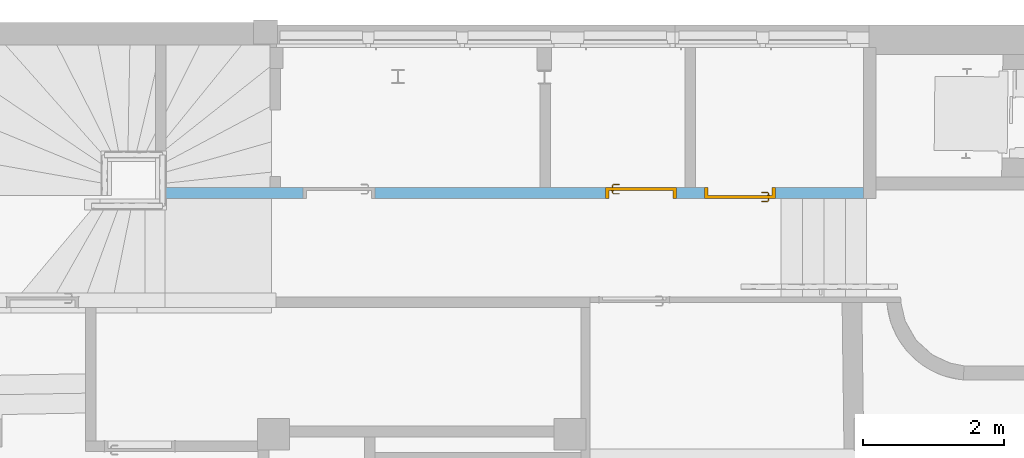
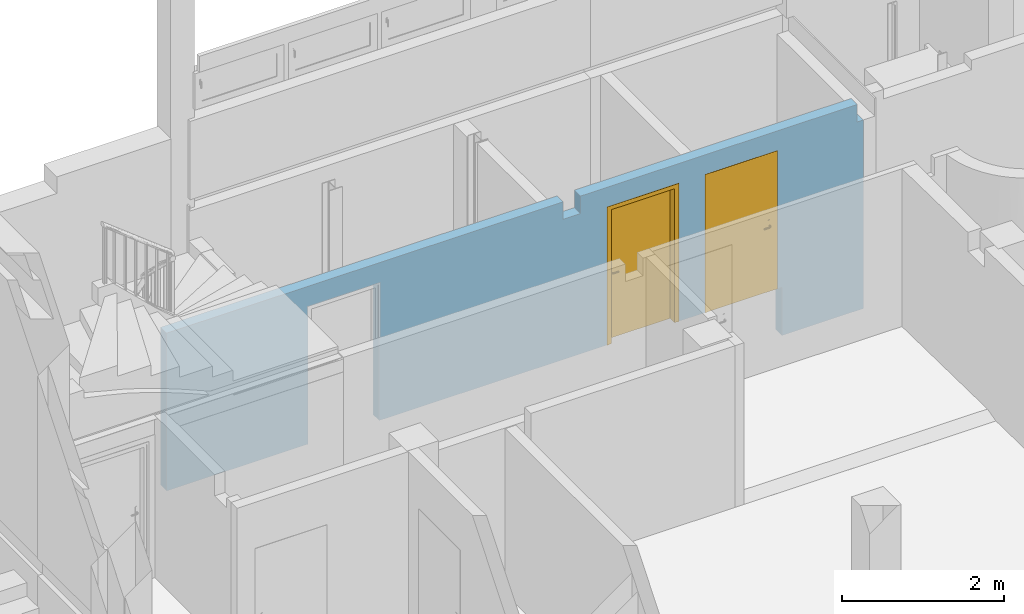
# One storey, part 14 of 39: 2 doors, 3 openings, plus 1 element that does not belong to this part.
"""IFC4 building model written with IfcOpenShell, lengths in metres."""

from ifc_helpers import new_model, entity, si_unit, converted_unit, derived_unit, direction, frame, origin, place, context, subcontext, project, spatial, indexed_curve, outline, extrude, polygons, source, transform, mapped, material, material_list, layer, layer_set, constituent, constituent_set, type_object, type_shapes, element, fill, save


model = new_model("IFC4")

# Units and contexts
model_context = context("Model", 3, precision=1e-05, world=origin(), true_north=direction((6.12303176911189e-17, 1.0)))
body_context = subcontext(model_context, "Body", "Model", "MODEL_VIEW")
ifc_project = project(units=[si_unit("LENGTHUNIT", "METRE"), si_unit("AREAUNIT", "SQUARE_METRE"), si_unit("VOLUMEUNIT", "CUBIC_METRE"), converted_unit("PLANEANGLEUNIT", "DEGREE", entity("IfcRatioMeasure", 0.0174532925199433), si_unit("PLANEANGLEUNIT", "RADIAN"), dimensions=[0, 0, 0, 0, 0, 0, 0]), si_unit("MASSUNIT", "GRAM", prefix="KILO"), derived_unit("MASSDENSITYUNIT", [(si_unit("MASSUNIT", "GRAM", prefix="KILO"), 1), (si_unit("LENGTHUNIT", "METRE"), -3)]), derived_unit("MOMENTOFINERTIAUNIT", [(si_unit("LENGTHUNIT", "METRE"), 4)]), si_unit("TIMEUNIT", "SECOND"), si_unit("FREQUENCYUNIT", "HERTZ"), si_unit("THERMODYNAMICTEMPERATUREUNIT", "DEGREE_CELSIUS"), derived_unit("THERMALTRANSMITTANCEUNIT", [(si_unit("MASSUNIT", "GRAM", prefix="KILO"), 1), (si_unit("THERMODYNAMICTEMPERATUREUNIT", "KELVIN"), -1), (si_unit("TIMEUNIT", "SECOND"), -3)]), derived_unit("VOLUMETRICFLOWRATEUNIT", [(si_unit("LENGTHUNIT", "METRE"), 3), (si_unit("TIMEUNIT", "SECOND"), -1)]), si_unit("ELECTRICCURRENTUNIT", "AMPERE"), si_unit("ELECTRICVOLTAGEUNIT", "VOLT"), si_unit("POWERUNIT", "WATT"), si_unit("FORCEUNIT", "NEWTON", prefix="KILO"), si_unit("ILLUMINANCEUNIT", "LUX"), si_unit("LUMINOUSFLUXUNIT", "LUMEN"), si_unit("LUMINOUSINTENSITYUNIT", "CANDELA"), derived_unit("USERDEFINED", [(si_unit("MASSUNIT", "GRAM", prefix="KILO"), -1), (si_unit("LENGTHUNIT", "METRE"), -2), (si_unit("TIMEUNIT", "SECOND"), 3), (si_unit("LUMINOUSFLUXUNIT", "LUMEN"), 1)]), derived_unit("LINEARVELOCITYUNIT", [(si_unit("LENGTHUNIT", "METRE"), 1), (si_unit("TIMEUNIT", "SECOND"), -1)]), si_unit("PRESSUREUNIT", "PASCAL"), derived_unit("USERDEFINED", [(si_unit("LENGTHUNIT", "METRE"), -2), (si_unit("MASSUNIT", "GRAM", prefix="KILO"), 1), (si_unit("TIMEUNIT", "SECOND"), -2)]), derived_unit("LINEARFORCEUNIT", [(si_unit("MASSUNIT", "GRAM", prefix="KILO"), 1), (si_unit("LENGTHUNIT", "METRE"), 1), (si_unit("TIMEUNIT", "SECOND"), -2), (si_unit("LENGTHUNIT", "METRE"), -1)]), derived_unit("PLANARFORCEUNIT", [(si_unit("MASSUNIT", "GRAM", prefix="KILO"), 1), (si_unit("LENGTHUNIT", "METRE"), 1), (si_unit("TIMEUNIT", "SECOND"), -2), (si_unit("LENGTHUNIT", "METRE"), -2)])], contexts=[model_context])

# Site, building, storey
site_placement = place(None, origin())
site = spatial("IfcSite", under=ifc_project, at=site_placement, Name="Default", CompositionType="ELEMENT")
building_placement = place(site_placement, origin())
building = spatial("IfcBuilding", under=site, at=building_placement, Name="HOTEL CONSULAIRE BOULOGNE SUR MER", CompositionType="ELEMENT")
storey_placement = place(building_placement, frame((0.0, 0.0, -5.02343668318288)))
storey = spatial("IfcBuildingStorey", under=building, at=storey_placement, Name="SS3", CompositionType="ELEMENT", Elevation=-5.02343668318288)

# Wall, openings, doors
ifc_material_1 = material(Name="Mur par défaut", Category="Divers")
ifc_layer = layer(ifc_material_1, 0.15, Name="Mur par défaut", Category="Divers")
ifc_layer_set = layer_set([ifc_layer], Name="Mur de base:Générique - Int. 150 mm")
wall_type = type_object("IfcWallType", Name="Mur de base:Générique - Int. 150 mm", PredefinedType="NOTDEFINED", material=ifc_layer_set)
wall_placement = place(storey_placement, frame((-2.83014197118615, -12.1964663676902, -0.649999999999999)))
wall = element("IfcWall", 1, at=wall_placement, inside=storey, type_object=wall_type, material=ifc_layer_set, Name="Mur de base:Générique - Int. 150 mm", ObjectType="Mur de base:Générique - Int. 150 mm", PredefinedType="NOTDEFINED", context=body_context, shape_type="Tessellation", body=[
    polygons([(-3.07818758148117e-15, 0.0750000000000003, 3.11399047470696), (-4.2123720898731e-16, -0.0750000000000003, 3.11399047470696), (5.66557991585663, -0.0750000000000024, 3.11399047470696), (5.66557991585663, 0.0749999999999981, 3.11399047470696), (5.52731874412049, 0.0750000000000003, 3.11399047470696), (5.37731874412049, 0.0750000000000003, 3.11399047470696), (2.01727035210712, -0.0750000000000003, 0.73), (1.20196355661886e-16, -0.0750000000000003, 0.73), (1.70413806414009e-16, 0.0750000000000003, 0.73), (1.5512703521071, 0.0750000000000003, 0.73), (1.7012703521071, 0.0749999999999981, 0.73), (2.01727035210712, 0.0750000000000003, 0.73), (6.3073187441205, -0.0750000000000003, 0.73), (3.03727035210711, -0.0750000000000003, 0.73), (3.03727035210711, 0.0750000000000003, 0.73), (5.37731874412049, 0.0750000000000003, 0.73), (5.52731874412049, 0.0750000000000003, 0.73), (6.3073187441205, 0.0750000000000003, 0.73), (7.71019694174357, -0.0750000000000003, 0.73), (7.3073187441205, -0.0750000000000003, 0.73), (7.3073187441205, 0.0750000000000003, 0.73), (7.43219694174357, 0.0750000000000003, 0.73), (7.58219694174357, 0.0750000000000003, 0.73), (7.71019694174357, 0.0750000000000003, 0.73), (8.79234918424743, -0.0750000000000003, 0.73), (8.79234918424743, -0.0750000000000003, 0.0), (9.95912223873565, -0.0750000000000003, 0.0), (9.95912223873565, -0.0750000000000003, 2.84999999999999), (9.87057991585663, -0.0750000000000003, 2.84999999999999), (9.87057991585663, -0.0750000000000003, 3.11399047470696), (5.91557991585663, -0.0750000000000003, 3.11399047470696), (5.91557991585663, -0.0750000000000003, 2.84999999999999), (5.66557991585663, -0.0750000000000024, 2.84999999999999), (2.01727035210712, -0.0750000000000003, 2.80500000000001), (3.03727035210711, -0.0750000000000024, 2.80500000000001), (6.3073187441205, -0.0750000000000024, 2.805), (7.3073187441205, -0.0750000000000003, 2.805), (7.71019694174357, -0.0750000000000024, 2.805), (8.71019694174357, -0.0750000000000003, 2.805), (8.71019694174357, -0.0750000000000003, 0.73), (9.95912223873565, 0.0750000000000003, 0.0), (8.79234918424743, 0.0750000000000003, 0.0), (8.79234918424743, 0.0750000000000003, 0.44), (8.79234918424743, 0.0750000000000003, 0.73), (8.71019694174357, 0.0750000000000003, 0.729999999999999), (8.71019694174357, 0.0750000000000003, 2.805), (7.71019694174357, 0.0749999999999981, 2.805), (7.3073187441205, 0.0750000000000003, 2.805), (6.3073187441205, 0.0749999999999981, 2.805), (3.03727035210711, 0.0749999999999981, 2.80500000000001), (2.01727035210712, 0.0750000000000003, 2.80500000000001), (5.66557991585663, 0.0749999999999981, 2.84999999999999), (5.91557991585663, 0.0750000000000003, 2.84999999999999), (5.91557991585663, 0.0750000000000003, 3.11399047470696), (7.43219694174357, 0.0750000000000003, 3.11399047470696), (7.58219694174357, 0.0750000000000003, 3.11399047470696), (9.87057991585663, 0.0750000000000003, 3.11399047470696), (9.87057991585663, 0.0750000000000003, 2.84999999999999), (9.95912223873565, 0.0750000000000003, 2.84999999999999), (9.95912223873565, 0.0750000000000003, 0.73), (9.95912223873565, 0.0750000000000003, 0.44)], [[[2, 3, 4, 5, 6, 1]], [[32, 53, 52, 33]], [[28, 59, 58, 29]], [[31, 30, 57, 56, 55, 54]], [[11, 12, 7, 8, 9, 10]], [[17, 18, 13, 14, 15, 16]], [[23, 24, 19, 20, 21, 22]], [[34, 51, 50, 35]], [[49, 48, 37, 36]], [[38, 47, 46, 39]], [[27, 26, 42, 41]], [[45, 44, 25, 40]], [[34, 35, 14, 13, 36, 37, 20, 19, 38, 39, 40, 25, 26, 27, 28, 29, 30, 31, 32, 33, 3, 2, 8, 7]], [[41, 42, 43, 44, 45, 46, 47, 24, 23, 22, 21, 48, 49, 18, 17, 16, 15, 50, 51, 12, 11, 10, 9, 1, 6, 5, 4, 52, 53, 54, 55, 56, 57, 58, 59, 60, 61]], [[7, 12, 51, 34]], [[18, 49, 36, 13]], [[19, 24, 47, 38]], [[33, 52, 4, 3]], [[30, 29, 58, 57]], [[27, 41, 61, 60, 59, 28]], [[35, 50, 15, 14]], [[21, 20, 37, 48]], [[39, 46, 45, 40]], [[31, 54, 53, 32]], [[8, 2, 1, 9]], [[26, 25, 44, 43, 42]]], closed=True),
])
opening_1_placement = place(wall_placement, frame((2.01727035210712, -0.0749999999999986, 0.73)))
element("IfcOpeningElement", 2, at=opening_1_placement, cuts=wall, Name="Int. Simple:PP0.95x2.04 2:1", ObjectType="Opening", PredefinedType="OPENING", context=body_context, shape_type="SweptSolid", body=[
    extrude(outline(indexed_curve([(0.0, 2.70716782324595e-16), (2.07500000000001, 2.70716782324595e-16), (2.07500000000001, 1.02), (0.0, 1.02), (0.0, 2.70716782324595e-16)], self_intersect=False)), frame((0.0, 0.0, 0.0), z_axis=(0.0, 1.0, 0.0), x_axis=(0.0, 0.0, 1.0)), (0.0, 0.0, 1.0), 0.15),
])
opening_2_placement = place(wall_placement, frame((6.3073187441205, -0.0749999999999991, 0.73)))
opening_2 = element("IfcOpeningElement", 3, at=opening_2_placement, cuts=wall, Name="Int. Simple:PP0.93x2.04:1", ObjectType="Opening", PredefinedType="OPENING", context=body_context, shape_type="SweptSolid", body=[
    extrude(outline(indexed_curve([(0.0, 1.0), (0.0, -3.46303244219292e-30), (2.075, -3.46303244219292e-30), (2.075, 1.0), (0.0, 1.0)], self_intersect=False)), frame((0.0, 0.0, 0.0), z_axis=(0.0, 1.0, 0.0), x_axis=(0.0, 0.0, 1.0)), (0.0, 0.0, 1.0), 0.15),
])
opening_3_placement = place(wall_placement, frame((8.71019694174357, 0.0749999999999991, 0.73)))
opening_3 = element("IfcOpeningElement", 4, at=opening_3_placement, cuts=wall, Name="Int. Simple:PP0.93x2.04:1", ObjectType="Opening", PredefinedType="OPENING", context=body_context, shape_type="SweptSolid", body=[
    extrude(outline(indexed_curve([(0.0, 1.0), (0.0, -3.46303244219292e-30), (2.075, -3.46303244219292e-30), (2.075, 1.0), (0.0, 1.0)], self_intersect=False)), frame((0.0, 0.0, 0.0), z_axis=(0.0, -1.0, 0.0), x_axis=(0.0, 0.0, 1.0)), (0.0, 0.0, 1.0), 0.15),
])
ifc_material_2 = material(Name="Finition Peinture - Blanc satiné", Category="Peinture")
ifc_constituent_1 = constituent(ifc_material_2, Name="Finition Peinture - Blanc satiné", Category="Matériaux")
ifc_material_3 = material(Name="Bois - Panneau de porte", Category="Bois")
ifc_constituent_2 = constituent(ifc_material_3, Name="Bois - Panneau de porte", Category="Matériaux")
ifc_material_4 = material(Name="Bois - Cadre de porte", Category="Bois")
ifc_constituent_3 = constituent(ifc_material_4, Name="Bois - Cadre de porte", Category="Matériaux")
ifc_constituent_set_1 = constituent_set(constituents=[ifc_constituent_1, ifc_constituent_2, ifc_constituent_3], Name="MaterialConstituentSet")
ifc_material_list = material_list([ifc_material_2, ifc_material_4, ifc_material_3, ifc_material_4])
door_type = type_object("IfcDoorType", Name="Int. Simple:PP0.93x2.04", OperationType="NOTDEFINED", PredefinedType="DOOR", material=ifc_material_list)
shared_shape = source(origin(), body_context, "Body", "Tessellation", [
    polygons([(0.995000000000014, -0.00500000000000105, 0.870000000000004), (0.995000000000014, -0.00500000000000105, 1.08), (0.985352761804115, -0.00500000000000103, 1.08399601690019), (0.975000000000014, -0.00500000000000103, 1.08535898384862), (0.964647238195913, -0.00500000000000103, 1.08399601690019), (0.955000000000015, -0.00500000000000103, 1.08), (0.955000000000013, -0.00500000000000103, 0.870000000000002), (0.964647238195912, -0.00500000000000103, 0.866003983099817), (0.975000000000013, -0.00500000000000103, 0.86464101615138), (0.985352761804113, -0.00500000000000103, 0.866003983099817), (0.995000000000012, -1.04902753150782e-15, 0.870000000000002), (0.985352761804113, -1.04902753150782e-15, 0.866003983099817), (0.975000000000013, -1.04056763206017e-15, 0.86464101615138), (0.964647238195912, -1.04056763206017e-15, 0.866003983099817), (0.955000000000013, -1.03210773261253e-15, 0.870000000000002), (0.955000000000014, -1.03210773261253e-15, 1.08), (0.964647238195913, -1.04056763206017e-15, 1.08399601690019), (0.975000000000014, -1.04056763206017e-15, 1.08535898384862), (0.985352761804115, -1.04902753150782e-15, 1.08399601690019), (0.995000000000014, -1.04902753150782e-15, 1.08)], [[[1, 2, 3, 4, 5, 6, 7, 8, 9, 10]], [[20, 11, 12, 13, 14, 15, 16, 17, 18, 19]], [[10, 12, 11, 1]], [[9, 13, 12, 10]], [[8, 14, 13, 9]], [[8, 7, 15, 14]], [[15, 7, 6, 16]], [[5, 17, 16, 6]], [[4, 18, 17, 5]], [[3, 19, 18, 4]], [[3, 2, 20, 19]], [[11, 20, 2, 1]]], closed=True),
    polygons([(0.955000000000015, 0.0399999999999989, 1.08), (0.955000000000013, 0.0399999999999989, 0.870000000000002), (0.964647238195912, 0.0399999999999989, 0.866003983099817), (0.975000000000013, 0.0399999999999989, 0.86464101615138), (0.985352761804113, 0.0399999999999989, 0.866003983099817), (0.995000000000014, 0.0399999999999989, 0.870000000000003), (0.995000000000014, 0.0399999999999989, 1.08), (0.985352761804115, 0.0399999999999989, 1.08399601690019), (0.975000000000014, 0.0399999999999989, 1.08535898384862), (0.964647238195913, 0.0399999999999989, 1.08399601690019), (0.955000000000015, 0.044999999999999, 1.08), (0.964647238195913, 0.0449999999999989, 1.08399601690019), (0.975000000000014, 0.0449999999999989, 1.08535898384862), (0.985352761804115, 0.0449999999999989, 1.08399601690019), (0.995000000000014, 0.0449999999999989, 1.08), (0.995000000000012, 0.0449999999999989, 0.870000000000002), (0.985352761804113, 0.0449999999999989, 0.866003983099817), (0.975000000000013, 0.0449999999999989, 0.86464101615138), (0.964647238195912, 0.0449999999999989, 0.866003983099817), (0.955000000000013, 0.044999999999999, 0.870000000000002)], [[[6, 7, 8, 9, 10, 1, 2, 3, 4, 5]], [[13, 14, 15, 16, 17, 18, 19, 20, 11, 12]], [[10, 12, 11, 1]], [[9, 13, 12, 10]], [[8, 14, 13, 9]], [[8, 7, 15, 14]], [[16, 15, 7, 6]], [[5, 17, 16, 6]], [[4, 18, 17, 5]], [[3, 19, 18, 4]], [[3, 2, 20, 19]], [[20, 2, 1, 11]]], closed=True),
    polygons([(0.981000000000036, -0.00500000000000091, 1.00699999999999), (0.981000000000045, -0.00500000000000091, 0.992999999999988), (0.977025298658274, -0.00500000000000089, 0.99221955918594), (0.972974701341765, -0.00500000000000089, 0.992219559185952), (0.968999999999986, -0.00500000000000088, 0.993000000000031), (0.968999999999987, -0.00500000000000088, 1.007), (0.972974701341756, -0.00500000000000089, 1.00778044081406), (0.977025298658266, -0.00500000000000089, 1.00778044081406), (0.968999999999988, -0.0276803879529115, 1.007), (0.972974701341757, -0.0293267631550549, 1.00778044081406), (0.977025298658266, -0.0310045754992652, 1.00778044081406), (0.981000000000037, -0.0326509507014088, 1.007), (0.968999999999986, -0.0276803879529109, 0.993000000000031), (0.981000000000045, -0.0326509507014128, 0.992999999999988), (0.977025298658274, -0.0310045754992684, 0.99221955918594), (0.972974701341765, -0.0293267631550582, 0.992219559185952), (0.957652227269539, -0.0390281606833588, 1.007), (0.959298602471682, -0.0430028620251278, 1.00778044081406), (0.960976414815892, -0.0470534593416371, 1.00778044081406), (0.962622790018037, -0.051028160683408, 1.007), (0.957652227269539, -0.0390281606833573, 0.993000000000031), (0.96262279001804, -0.0510281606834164, 0.992999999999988), (0.960976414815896, -0.0470534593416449, 0.99221955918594), (0.959298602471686, -0.0430028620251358, 0.992219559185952), (0.874981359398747, -0.0510281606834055, 1.007), (0.874981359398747, -0.0470534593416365, 1.00778044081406), (0.874981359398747, -0.0430028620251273, 1.00778044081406), (0.874981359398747, -0.0390281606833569, 1.00699999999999), (0.874981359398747, -0.0390281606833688, 0.993000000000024), (0.874981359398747, -0.0430028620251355, 0.992219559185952), (0.874981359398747, -0.0470534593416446, 0.99221955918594), (0.874981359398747, -0.0510281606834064, 0.992999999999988), (0.922692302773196, -0.051028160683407, 1.007), (0.917139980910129, -0.045028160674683, 1.0078786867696), (0.916316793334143, -0.0390281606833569, 1.007), (0.922692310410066, -0.0510281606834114, 0.992999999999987), (0.917139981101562, -0.0450281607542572, 0.992121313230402), (0.916316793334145, -0.0390281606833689, 0.993000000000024)], [[[7, 8, 1, 2, 3, 4, 5, 6]], [[17, 21, 38, 29, 28, 35]], [[1, 8, 11, 12]], [[8, 7, 10, 18, 19, 11]], [[7, 6, 9, 10]], [[13, 9, 6, 5]], [[25, 26, 27, 28, 29, 30, 31, 32]], [[4, 16, 13, 5]], [[4, 3, 15, 23, 24, 16]], [[2, 14, 15, 3]], [[12, 14, 2, 1]], [[12, 11, 19, 20]], [[10, 9, 17, 18]], [[21, 17, 9, 13]], [[13, 16, 24, 21]], [[15, 14, 22, 23]], [[20, 22, 14, 12]], [[34, 26, 33]], [[33, 26, 25]], [[33, 20, 19]], [[18, 35, 34]], [[35, 18, 17]], [[28, 27, 35]], [[34, 27, 26]], [[34, 35, 27]], [[34, 33, 19]], [[18, 34, 19]], [[37, 30, 38]], [[31, 37, 36]], [[24, 38, 21]], [[30, 29, 38]], [[31, 36, 32]], [[36, 23, 22]], [[37, 23, 36]], [[37, 24, 23]], [[37, 38, 24]], [[30, 37, 31]], [[22, 20, 33, 25, 32, 36]]], closed=True),
    polygons([(0.968999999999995, 0.0449999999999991, 0.993000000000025), (0.972974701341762, 0.0449999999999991, 0.992219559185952), (0.977025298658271, 0.0449999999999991, 0.99221955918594), (0.981000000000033, 0.0449999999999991, 0.992999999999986), (0.981000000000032, 0.0449999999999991, 1.007), (0.977025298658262, 0.0449999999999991, 1.00778044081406), (0.972974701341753, 0.0449999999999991, 1.00778044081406), (0.968999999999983, 0.0449999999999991, 1.007), (0.968999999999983, 0.067485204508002, 1.007), (0.968999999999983, 0.0674852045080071, 0.993000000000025), (0.981000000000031, 0.0724557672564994, 1.007), (0.977025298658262, 0.070809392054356, 1.00778044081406), (0.972974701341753, 0.0691315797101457, 1.00778044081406), (0.981000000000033, 0.0724557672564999, 0.992999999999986), (0.972974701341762, 0.0691315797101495, 0.992219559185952), (0.977025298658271, 0.0708093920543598, 0.99221955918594), (0.957514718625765, 0.0789704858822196, 1.007), (0.957514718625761, 0.0789704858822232, 0.993000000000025), (0.962485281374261, 0.0909704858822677, 1.007), (0.960838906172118, 0.0869957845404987, 1.00778044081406), (0.959161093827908, 0.0829451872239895, 1.00778044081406), (0.962485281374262, 0.0909704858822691, 0.992999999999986), (0.959161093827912, 0.0829451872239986, 0.992219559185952), (0.960838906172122, 0.0869957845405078, 0.99221955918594), (0.874954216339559, 0.0789704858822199, 0.993000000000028), (0.874954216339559, 0.0789704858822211, 1.007), (0.874954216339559, 0.0829451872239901, 1.00778044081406), (0.874954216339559, 0.0869957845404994, 1.00778044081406), (0.874954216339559, 0.0909704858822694, 1.007), (0.874954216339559, 0.0909704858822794, 0.992999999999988), (0.874954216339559, 0.086995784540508, 0.99221955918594), (0.874954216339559, 0.0829451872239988, 0.992219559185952), (0.922554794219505, 0.0909704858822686, 1.007), (0.917057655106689, 0.0849704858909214, 1.0078786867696), (0.916234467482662, 0.0789704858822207, 1.007), (0.922554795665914, 0.0909704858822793, 0.992999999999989), (0.917057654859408, 0.0849704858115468, 0.992121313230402), (0.916234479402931, 0.0789704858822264, 0.993000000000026)], [[[2, 3, 4, 5, 6, 7, 8, 1]], [[18, 17, 35, 26, 25, 38]], [[9, 10, 1, 8]], [[27, 28, 29, 30, 31, 32, 25, 26]], [[7, 13, 9, 8]], [[7, 6, 12, 20, 21, 13]], [[5, 11, 12, 6]], [[11, 5, 4, 14]], [[4, 3, 16, 14]], [[3, 2, 15, 23, 24, 16]], [[2, 1, 10, 15]], [[17, 18, 10, 9]], [[9, 13, 21, 17]], [[11, 19, 20, 12]], [[22, 19, 11, 14]], [[14, 16, 24, 22]], [[15, 10, 18, 23]], [[34, 27, 35]], [[28, 34, 33]], [[21, 35, 17]], [[27, 26, 35]], [[28, 33, 29]], [[33, 20, 19]], [[34, 20, 33]], [[34, 21, 20]], [[34, 35, 21]], [[27, 34, 28]], [[19, 22, 36, 30, 29, 33]], [[37, 31, 36]], [[36, 31, 30]], [[36, 22, 24]], [[23, 38, 37]], [[38, 23, 18]], [[25, 32, 38]], [[37, 32, 31]], [[37, 38, 32]], [[37, 36, 24]], [[23, 37, 24]]], closed=True),
    polygons([(1.03500000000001, 0.04, 2.04), (1.03500000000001, 0.04, 0.0), (0.105000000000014, 0.04, 0.0), (0.105000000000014, 0.04, 2.04), (1.03500000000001, 5.07593966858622e-17, 2.04), (0.105000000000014, 5.07593966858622e-17, 2.04), (0.105000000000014, 5.07593966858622e-17, 0.0), (1.03500000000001, 5.07593966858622e-17, 0.0)], [[[3, 4, 1, 2]], [[8, 5, 6, 7]], [[5, 1, 4, 6]], [[6, 4, 3, 7]], [[7, 3, 2, 8]], [[8, 2, 1, 5]]], closed=True),
    polygons([(1.07000000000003, 1.69197988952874e-17, 0.0), (1.03500000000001, 1.69197988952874e-17, 0.0), (1.03500000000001, 0.0400000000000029, 0.0), (1.02000000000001, 0.0400000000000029, 0.0), (1.02000000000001, 0.150000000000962, 0.0), (1.07000000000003, 0.150000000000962, 0.0), (1.07000000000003, 0.150000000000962, 2.07500000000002), (1.07000000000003, 1.69197988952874e-17, 2.07500000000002), (1.02000000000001, 0.150000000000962, 2.025), (0.120000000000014, 0.150000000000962, 2.025), (0.120000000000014, 0.150000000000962, 3.59657255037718e-24), (0.0699999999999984, 0.150000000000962, 3.88816484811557e-25), (0.0699999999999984, 0.150000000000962, 2.07500000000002), (1.02000000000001, 0.0400000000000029, 2.025), (1.03500000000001, 0.0400000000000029, 2.04), (0.105000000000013, 0.0400000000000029, 2.04), (0.105000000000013, 0.0400000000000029, -4.78103047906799e-25), (0.120000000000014, 0.0400000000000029, 2.24110802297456e-24), (0.120000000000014, 0.0400000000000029, 2.025), (1.03500000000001, 1.69197988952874e-17, 2.04), (0.0699999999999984, 1.69197988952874e-17, 2.07500000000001), (0.0699999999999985, 1.69197988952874e-17, -3.95490158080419e-25), (0.105000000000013, 1.69197988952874e-17, -2.84752548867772e-24), (0.105000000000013, 1.69197988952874e-17, 2.04)], [[[5, 6, 1, 2, 3, 4]], [[17, 23, 22, 12, 11, 18]], [[19, 10, 9, 14]], [[24, 16, 15, 20]], [[8, 1, 6, 7]], [[18, 11, 10, 19]], [[17, 16, 24, 23]], [[9, 10, 11, 12, 13, 7, 6, 5]], [[14, 9, 5, 4]], [[20, 15, 3, 2]], [[22, 21, 13, 12]], [[19, 14, 4, 3, 15, 16, 17, 18]], [[24, 20, 2, 1, 8, 21, 22, 23]], [[21, 8, 7, 13]]], closed=True),
    polygons([(1.05500000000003, 0.150000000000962, 0.0), (1.05500000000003, 0.155000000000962, 0.0), (1.08500000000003, 0.155000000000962, 0.0), (1.08500000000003, 0.150000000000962, 0.0), (1.08500000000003, 0.150000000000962, 2.09000000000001), (0.0550000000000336, 0.150000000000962, 2.09000000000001), (0.0550000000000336, 0.150000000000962, -9.00794238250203e-25), (0.0850000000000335, 0.150000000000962, -1.80158911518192e-24), (0.0850000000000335, 0.150000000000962, 2.06000000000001), (1.05500000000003, 0.150000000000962, 2.06000000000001), (1.08500000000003, 0.155000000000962, 2.09000000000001), (1.05500000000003, 0.155000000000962, 2.06000000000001), (0.0850000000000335, 0.155000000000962, 2.06000000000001), (0.0850000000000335, 0.155000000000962, -4.34281663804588e-24), (0.0550000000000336, 0.155000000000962, -5.48159974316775e-24), (0.0550000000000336, 0.155000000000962, 2.09000000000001)], [[[2, 3, 4, 1]], [[7, 15, 14, 8]], [[13, 12, 10, 9]], [[9, 10, 1, 4, 5, 6, 7, 8]], [[11, 5, 4, 3]], [[8, 14, 13, 9]], [[12, 13, 14, 15, 16, 11, 3, 2]], [[10, 12, 2, 1]], [[15, 7, 6, 16]], [[6, 5, 11, 16]]], closed=True),
    polygons([(1.05500000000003, -0.00499999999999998, 0.0), (1.05500000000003, 1.69197988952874e-17, 0.0), (1.08500000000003, 1.69197988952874e-17, 0.0), (1.08500000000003, -0.00499999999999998, 0.0), (0.0850000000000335, -0.00499999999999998, 5.41433564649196e-16), (0.0550000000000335, -0.00499999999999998, 5.41433564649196e-16), (0.0550000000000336, 1.69197988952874e-17, 5.41433564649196e-16), (0.0850000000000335, 1.69197988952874e-17, 5.41433564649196e-16), (1.08500000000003, -0.00499999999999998, 2.09000000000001), (0.0550000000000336, -0.00499999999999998, 2.09000000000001), (0.0850000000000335, -0.00499999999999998, 2.06000000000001), (1.05500000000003, -0.00499999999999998, 2.06000000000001), (1.08500000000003, 1.69197988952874e-17, 2.09000000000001), (1.05500000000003, 1.69197988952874e-17, 2.06000000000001), (0.0850000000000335, 1.69197988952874e-17, 2.06000000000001), (0.0550000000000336, 1.69197988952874e-17, 2.09000000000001)], [[[2, 3, 4, 1]], [[6, 7, 8, 5]], [[15, 14, 12, 11]], [[11, 12, 1, 4, 9, 10, 6, 5]], [[13, 9, 4, 3]], [[5, 8, 15, 11]], [[14, 15, 8, 7, 16, 13, 3, 2]], [[12, 14, 2, 1]], [[7, 6, 10, 16]], [[16, 10, 9, 13]]], closed=True),
])
type_shapes(door_type, [shared_shape])
door_1_placement = place(opening_2_placement, frame((1.07000000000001, 0.149999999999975, 0.0), z_axis=(0.0, 0.0, 1.0), x_axis=(-1.0, 0.0, 0.0)))
door_1 = element("IfcDoor", 5, at=door_1_placement, inside=storey, type_object=door_type, material=ifc_constituent_set_1, Name="Int. Simple:PP0.93x2.04", ObjectType="Int. Simple:PP0.93x2.04", OperationType="NOTDEFINED", OverallHeight=2.075, OverallWidth=1.0, PredefinedType="DOOR", context=body_context, shape_type="MappedRepresentation", body=[
    mapped(shared_shape, transform((0.0, 0.0, 0.0), scale=1.0)),
])
fill(opening_2, door_1)
ifc_constituent_4 = constituent(ifc_material_2, Name="Finition Peinture - Blanc satiné", Category="Matériaux")
ifc_constituent_5 = constituent(ifc_material_3, Name="Bois - Panneau de porte", Category="Matériaux")
ifc_constituent_6 = constituent(ifc_material_4, Name="Bois - Cadre de porte", Category="Matériaux")
ifc_constituent_set_2 = constituent_set(constituents=[ifc_constituent_4, ifc_constituent_5, ifc_constituent_6], Name="MaterialConstituentSet")
door_2_placement = place(opening_3_placement, frame((-1.07000000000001, -0.150000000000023, 0.0)))
door_2 = element("IfcDoor", 6, at=door_2_placement, inside=storey, type_object=door_type, material=ifc_constituent_set_2, Name="Int. Simple:PP0.93x2.04", ObjectType="Int. Simple:PP0.93x2.04", OperationType="NOTDEFINED", OverallHeight=2.075, OverallWidth=1.0, PredefinedType="DOOR", context=body_context, shape_type="MappedRepresentation", body=[
    mapped(shared_shape, transform((0.0, 0.0, 0.0), scale=1.0)),
])
fill(opening_3, door_2)

save(model, "model.ifc")
